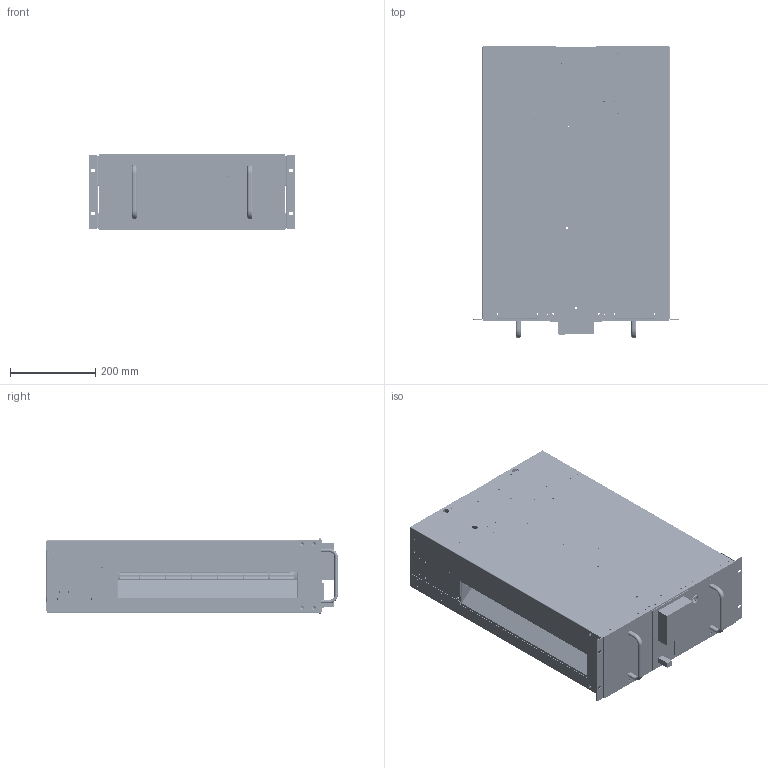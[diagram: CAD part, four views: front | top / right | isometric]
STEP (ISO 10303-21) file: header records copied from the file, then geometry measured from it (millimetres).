
FILE_DESCRIPTION(('CATIA V5 STEP Exchange'),'2;1');
FILE_NAME('C:\Users\sebas\cernbox\WINDOWS\Desktop\APPENDIX\REVISED SHORT ASSEMBLY.stp','2026-06-16T11:54:59+00:00',('none'),('none'),'CATIA Version 5-6 Release 2017 SP6 HF16','CATIA V5 STEP AP203','none');
FILE_SCHEMA(('CONFIG_CONTROL_DESIGN'));
Products named in the file (9): Assem2; Assem5; Assem1; case turbine motor assembly_short; turbine with spacers assembly_short; 02045810; Symmetry of case turbine motor assembly_short; Symmetry of turbine with spacers assembly_short; Symmetry of 02045810
Assembly tree (140 placements, depth 4):
  Assem2
    #57
    #5943  x2
    #7093
    #8021
    #11745
    #15154
    #19187
    #21584
    #24055
    #27166  x8
    #28955
    #30702
    #32812
    #35003  x2
    #35776  x2
    #37343  x4
    #37649  x2
    #42659  x2
    #56637
    #58263  x2
    #59075
    #61323  x2
    #61817
    #63218
    #64313
    #64999
    #65806
    #66644
    #67705  x2
    #68537
    Assem5
      #69947
      #72710
    Assem1
      #136026
      #138171
    case turbine motor assembly_short
      #138773
      turbine with spacers assembly_short
        #147816
        #170508
        #170923
        #171075
        #171635
      #172061
      #172840
      02045810
        #173023
        #174045
        #174572
        #175201
      #176461
      #178170
      #180508  x2
      #182859
      #185197  x2
      #185587  x2
      #185817  x4
      #186047  x4
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Bounding box: 482.5 x 685.5 x 177 mm (x, y, z)
Volume: 9729287.7 mm3; surface area: 4673700.4 mm2
Topology: 132 solids, 134 shells, 9871 faces, 28329 edges, 18764 vertices
Faces by surface type: plane 4884, cylinder 4442, torus 234, cone 223, sphere 68, bspline 16, revolution 4
Entity records: 250099 total; most frequent: CARTESIAN_POINT 53226, ORIENTED_EDGE 45986, DIRECTION 29126, EDGE_CURVE 22993, VERTEX_POINT 15283, VECTOR 14455, LINE 14455, AXIS2_PLACEMENT_3D 11117
